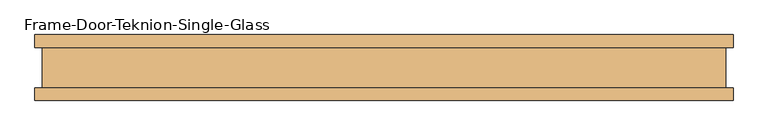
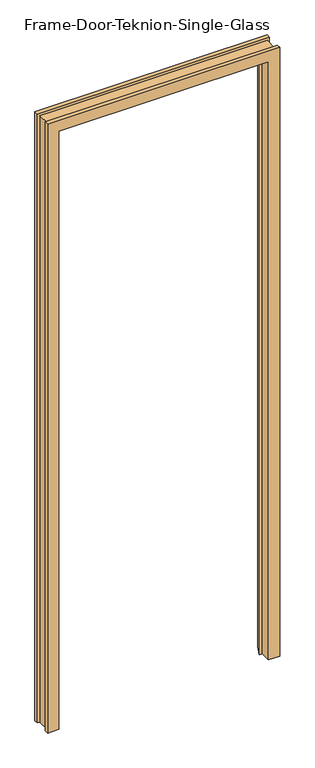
"""IFC4 building model written with IfcOpenShell, lengths in millimetres: door geometry, Frame-Door-Teknion-Single-Glass : FPFJS."""

from ifc_helpers import new_model, si_unit, origin, place, context, project, spatial, faceted_brep, source, transform, mapped, element, save


def frame_door_teknion_single_glass_8f8bf091(model_context):
    return source(origin(), model_context, "Body", "Brep", [
        faceted_brep([(-478.9807565, -50.0254003, 0.0), (-530.4157565, -50.0254003, 0.0), (-530.4157565, -30.7594, 0.0), (-519.4101562, -30.7594, 0.0), (-519.4101562, 30.7594, 0.0), (-530.4157565, 30.7594, 0.0), (-530.4157565, 50.0254003, 0.0), (-488.5054518, 50.0254003, 0.0), (-466.0583342, -0.7133435, 0.0), (-478.9807565, -0.7133435, 0.0), (-478.9807565, -0.7133435, 2889.885), (-478.9807565, -50.0254003, 2889.885), (-466.0583342, -0.7133435, 2876.9625776), (466.0583342, -0.7133435, 2876.9625776), (466.0583342, -0.7133435, 0.0), (478.9807565, -0.7133435, 0.0), (478.9807565, -0.7133435, 2889.885), (-488.5054518, 50.0254003, 2899.4096953), (-530.4157565, 50.0254003, 2941.32), (530.4157565, 50.0254003, 2941.32), (530.4157565, 50.0254003, 0.0), (488.5054518, 50.0254003, 0.0), (488.5054518, 50.0254003, 2899.4096953), (-530.4157565, 30.7594, 2941.32), (-519.4101562, 30.7594, 2930.3143997), (519.4101563, 30.7594, 2930.3143997), (519.4101563, 30.7594, 0.0), (530.4157565, 30.7594, 0.0), (530.4157565, 30.7594, 2941.32), (-519.4101562, -30.7594, 2930.3143997), (-530.4157565, -30.7594, 2941.32), (530.4157565, -30.7594, 2941.32), (530.4157565, -30.7594, 0.0), (519.4101563, -30.7594, 0.0), (519.4101563, -30.7594, 2930.3143997), (-530.4157565, -50.0254003, 2941.32), (478.9807565, -50.0254003, 2889.885), (478.9807565, -50.0254003, 0.0), (530.4157565, -50.0254003, 0.0), (530.4157565, -50.0254003, 2941.32)], [[[0, 1, 2, 3, 4, 5, 6, 7, 8, 9]], [[9, 10, 11, 0]], [[8, 12, 13, 14, 15, 16, 10, 9]], [[7, 17, 12, 8]], [[6, 18, 19, 20, 21, 22, 17, 7]], [[5, 23, 18, 6]], [[4, 24, 25, 26, 27, 28, 23, 5]], [[3, 29, 24, 4]], [[2, 30, 31, 32, 33, 34, 29, 3]], [[1, 35, 30, 2]], [[0, 11, 36, 37, 38, 39, 35, 1]], [[37, 15, 14, 21, 20, 27, 26, 33, 32, 38]], [[16, 15, 37, 36]], [[22, 21, 14, 13]], [[28, 27, 20, 19]], [[34, 33, 26, 25]], [[39, 38, 32, 31]], [[10, 16, 36, 11]], [[17, 22, 13, 12]], [[23, 28, 19, 18]], [[29, 34, 25, 24]], [[35, 39, 31, 30]]]),
    ])


if __name__ == "__main__":
    model = new_model("IFC4")
    model_context = context("Model", 3, world=origin())
    ifc_project = project(units=[si_unit("LENGTHUNIT", "METRE", prefix="MILLI")], contexts=[model_context])
    site = spatial("IfcSite", under=ifc_project)
    building = spatial("IfcBuilding", under=site)
    placement = place(None, origin())
    frame_door_teknion_single_glass_shape = frame_door_teknion_single_glass_8f8bf091(model_context)
    element("IfcDoor", 1, ObjectType="Frame-Door-Teknion-Single-Glass : FPFJS", at=placement, inside=building, context=model_context, shape_type="MappedRepresentation", body=[
        mapped(frame_door_teknion_single_glass_shape, transform((0.0, 0.0, 0.0), x_axis=(1.0, 0.0, 0.0), y_axis=(0.0, 1.0, 0.0), z_axis=(0.0, 0.0, 1.0))),
    ])
    save(model, "model.ifc")
